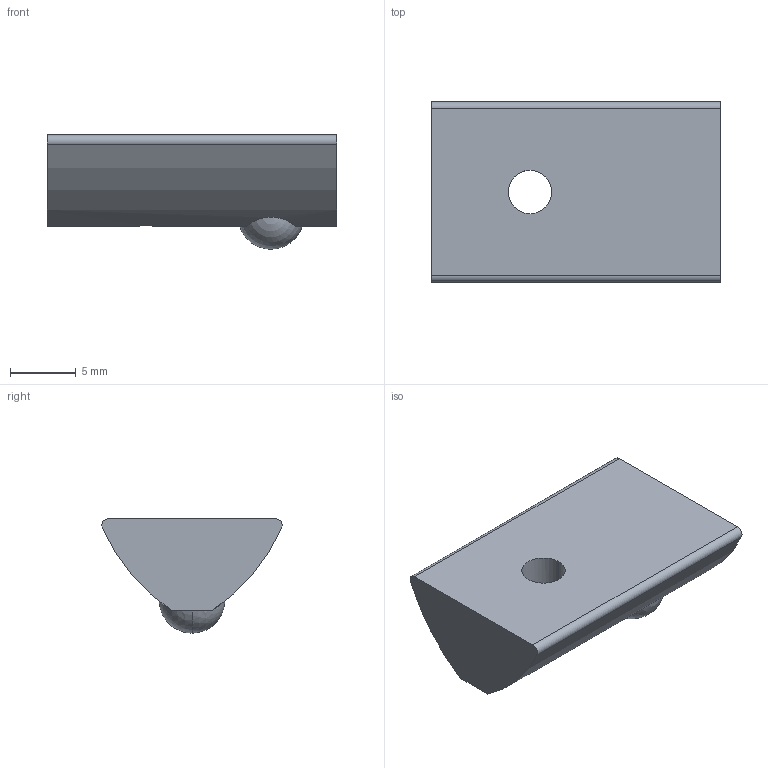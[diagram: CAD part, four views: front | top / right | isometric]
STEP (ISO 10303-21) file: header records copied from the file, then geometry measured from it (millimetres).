
FILE_DESCRIPTION (( 'STEP AP203' ), '1' );
FILE_NAME ('0108NSM4.STEP', '2024-03-05T08:24:42', ( 'Windows-Benutzer' ), ( '' ), 'SwSTEP 2.0', 'SolidWorks 2023', '' );
FILE_SCHEMA (( 'CONFIG_CONTROL_DESIGN' ));
Length unit declared in the file: millimetre
Products named in the file (1): 0108NSM4
Bounding box: 22 x 13.7 x 8.7 mm (x, y, z)
Volume: 1458.9 mm3; surface area: 959 mm2
Topology: 1 solids, 1 shells, 14 faces, 40 edges, 27 vertices
Faces by surface type: cylinder 6, plane 6, sphere 2
Entity records: 597 total; most frequent: CARTESIAN_POINT 134, DIRECTION 86, ORIENTED_EDGE 80, EDGE_CURVE 40, AXIS2_PLACEMENT_3D 35, VERTEX_POINT 27, CIRCLE 20, VECTOR 16
